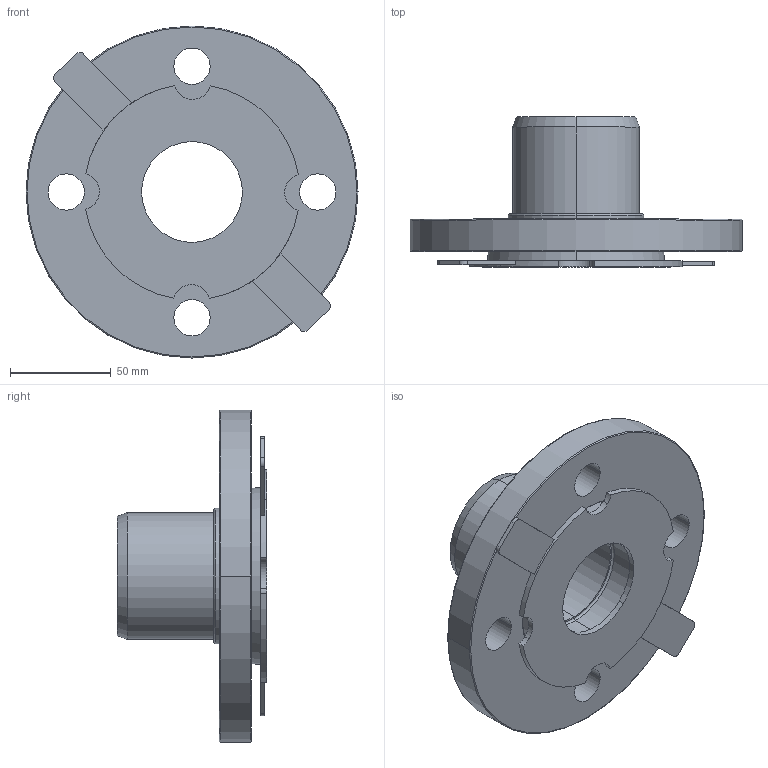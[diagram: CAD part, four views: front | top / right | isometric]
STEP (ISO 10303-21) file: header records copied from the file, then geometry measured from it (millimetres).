
FILE_DESCRIPTION (( 'STEP AP203' ), '1' );
FILE_NAME ('KP_567-63.step', '2011-08-08T11:59:14', ( '' ), ( '' ), 'SwSTEP 2.0', 'SolidWorks 2011', '' );
FILE_SCHEMA (( 'CONFIG_CONTROL_DESIGN' ));
Length unit declared in the file: millimetre
Products named in the file (1): KP_567-63
Bounding box: 165 x 74.5 x 165 mm (x, y, z)
Volume: 380599.1 mm3; surface area: 90305.6 mm2
Topology: 1 solids, 1 shells, 85 faces, 199 edges, 124 vertices
Faces by surface type: cylinder 37, cone 18, plane 18, torus 12
Entity records: 2566 total; most frequent: DIRECTION 495, CARTESIAN_POINT 409, ORIENTED_EDGE 398, AXIS2_PLACEMENT_3D 210, EDGE_CURVE 199, CIRCLE 124, VERTEX_POINT 124, EDGE_LOOP 103
